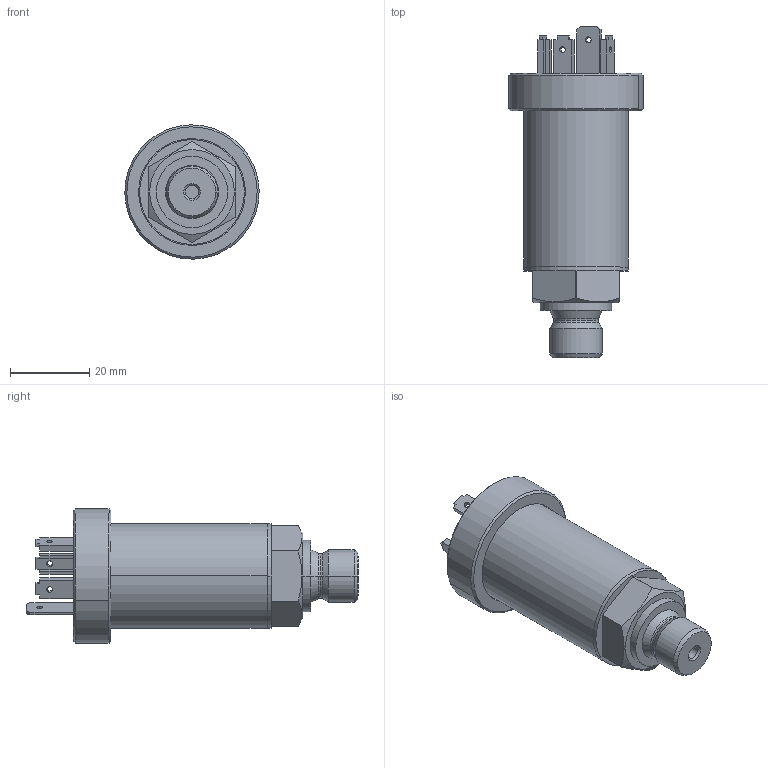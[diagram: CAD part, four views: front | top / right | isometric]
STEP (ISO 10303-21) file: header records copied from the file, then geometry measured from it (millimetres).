
FILE_DESCRIPTION (( 'STEP AP203' ), '1' );
FILE_NAME ('TK.STEP', '2007-12-14T13:45:45', ( 'User' ), ( 'Gefran S.p.a.' ), 'SwSTEP 2.0', 'SolidWorks 2007', '' );
FILE_SCHEMA (( 'CONFIG_CONTROL_DESIGN' ));
Length unit declared in the file: millimetre
Products named in the file (4): NIP160x; TK; CUS397x_Revisione_1; PKIT223X
Assembly tree (3 placements, depth 2):
  TK
    PKIT223X
    CUS397x_Revisione_1
    NIP160x
Bounding box: 33.99 x 84 x 33.99 mm (x, y, z)
Volume: 15746.8 mm3; surface area: 13625.1 mm2
Topology: 3 solids, 3 shells, 117 faces, 286 edges, 184 vertices
Faces by surface type: plane 63, cylinder 32, cone 18, torus 4
Entity records: 3920 total; most frequent: CARTESIAN_POINT 661, DIRECTION 614, ORIENTED_EDGE 572, EDGE_CURVE 286, AXIS2_PLACEMENT_3D 213, VECTOR 188, LINE 188, VERTEX_POINT 184
